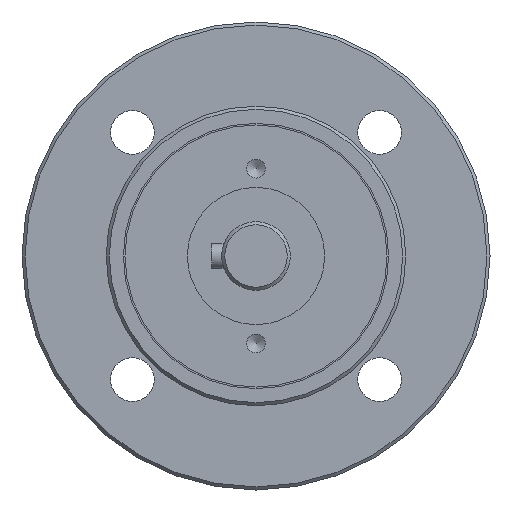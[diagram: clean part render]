
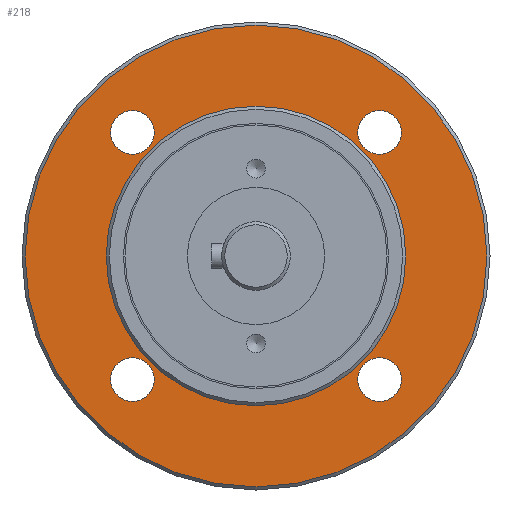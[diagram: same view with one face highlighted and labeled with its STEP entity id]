
A CAD part, left-side view. The second image highlights one B-rep face of the part: STEP entity #218.
In plain terms, the highlighted planar face has unit normal (-1, 0, 0).
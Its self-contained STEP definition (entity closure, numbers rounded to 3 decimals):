
#218 = ADVANCED_FACE( '', ( #491, #492, #493, #494, #495, #496 ), #497, .T. );
#491 = FACE_BOUND( '', #1511, .T. );
#492 = FACE_OUTER_BOUND( '', #1512, .T. );
#493 = FACE_BOUND( '', #1513, .T. );
#494 = FACE_BOUND( '', #1514, .T. );
#495 = FACE_BOUND( '', #1515, .T. );
#496 = FACE_BOUND( '', #1516, .T. );
#497 = PLANE( '', #1517 );
#1511 = EDGE_LOOP( '', ( #2200 ) );
#1512 = EDGE_LOOP( '', ( #2201 ) );
#1513 = EDGE_LOOP( '', ( #2202 ) );
#1514 = EDGE_LOOP( '', ( #2203 ) );
#1515 = EDGE_LOOP( '', ( #2204 ) );
#1516 = EDGE_LOOP( '', ( #2205 ) );
#1517 = AXIS2_PLACEMENT_3D( '', #2206, #2207, #2208 );
#2200 = ORIENTED_EDGE( '', *, *, #2479, .F. );
#2201 = ORIENTED_EDGE( '', *, *, #2428, .T. );
#2202 = ORIENTED_EDGE( '', *, *, #2450, .F. );
#2203 = ORIENTED_EDGE( '', *, *, #2511, .F. );
#2204 = ORIENTED_EDGE( '', *, *, #2363, .F. );
#2205 = ORIENTED_EDGE( '', *, *, #2360, .F. );
#2206 = CARTESIAN_POINT( '', ( 0., 0., 0. ) );
#2207 = DIRECTION( '', ( -1., 0., 0. ) );
#2208 = DIRECTION( '', ( 0., -1., 0. ) );
#2360 = EDGE_CURVE( '', #2572, #2572, #2573, .T. );
#2363 = EDGE_CURVE( '', #2577, #2577, #2578, .T. );
#2428 = EDGE_CURVE( '', #2683, #2683, #2684, .T. );
#2450 = EDGE_CURVE( '', #2715, #2715, #2716, .T. );
#2479 = EDGE_CURVE( '', #2755, #2755, #2756, .T. );
#2511 = EDGE_CURVE( '', #2794, #2794, #2795, .T. );
#2572 = VERTEX_POINT( '', #2863 );
#2573 = CIRCLE( '', #2864, 3.5 );
#2577 = VERTEX_POINT( '', #2868 );
#2578 = CIRCLE( '', #2869, 3.5 );
#2683 = VERTEX_POINT( '', #3269 );
#2684 = CIRCLE( '', #3270, 37. );
#2715 = VERTEX_POINT( '', #3301 );
#2716 = CIRCLE( '', #3302, 3.5 );
#2755 = VERTEX_POINT( '', #3343 );
#2756 = CIRCLE( '', #3344, 24. );
#2794 = VERTEX_POINT( '', #3387 );
#2795 = CIRCLE( '', #3388, 3.5 );
#2863 = CARTESIAN_POINT( '', ( 0., 16.299, -19.799 ) );
#2864 = AXIS2_PLACEMENT_3D( '', #3486, #3487, #3488 );
#2868 = CARTESIAN_POINT( '', ( 0., -23.299, -19.799 ) );
#2869 = AXIS2_PLACEMENT_3D( '', #3492, #3493, #3494 );
#3269 = CARTESIAN_POINT( '', ( 0., -37., 0. ) );
#3270 = AXIS2_PLACEMENT_3D( '', #3589, #3590, #3591 );
#3301 = CARTESIAN_POINT( '', ( 0., 16.299, 19.799 ) );
#3302 = AXIS2_PLACEMENT_3D( '', #3631, #3632, #3633 );
#3343 = CARTESIAN_POINT( '', ( 0., -24., 0. ) );
#3344 = AXIS2_PLACEMENT_3D( '', #3672, #3673, #3674 );
#3387 = CARTESIAN_POINT( '', ( 0., -23.299, 19.799 ) );
#3388 = AXIS2_PLACEMENT_3D( '', #3707, #3708, #3709 );
#3486 = CARTESIAN_POINT( '', ( 0., 19.799, -19.799 ) );
#3487 = DIRECTION( '', ( -1., 0., 0. ) );
#3488 = DIRECTION( '', ( 0., -1., 0. ) );
#3492 = CARTESIAN_POINT( '', ( 0., -19.799, -19.799 ) );
#3493 = DIRECTION( '', ( -1., 0., 0. ) );
#3494 = DIRECTION( '', ( 0., -1., 0. ) );
#3589 = CARTESIAN_POINT( '', ( 0., 0., 0. ) );
#3590 = DIRECTION( '', ( -1., 0., 0. ) );
#3591 = DIRECTION( '', ( 0., -1., 0. ) );
#3631 = CARTESIAN_POINT( '', ( 0., 19.799, 19.799 ) );
#3632 = DIRECTION( '', ( -1., 0., 0. ) );
#3633 = DIRECTION( '', ( 0., -1., 0. ) );
#3672 = CARTESIAN_POINT( '', ( 0., 0., 0. ) );
#3673 = DIRECTION( '', ( -1., 0., 0. ) );
#3674 = DIRECTION( '', ( 0., -1., 0. ) );
#3707 = CARTESIAN_POINT( '', ( 0., -19.799, 19.799 ) );
#3708 = DIRECTION( '', ( -1., 0., 0. ) );
#3709 = DIRECTION( '', ( 0., -1., 0. ) );
